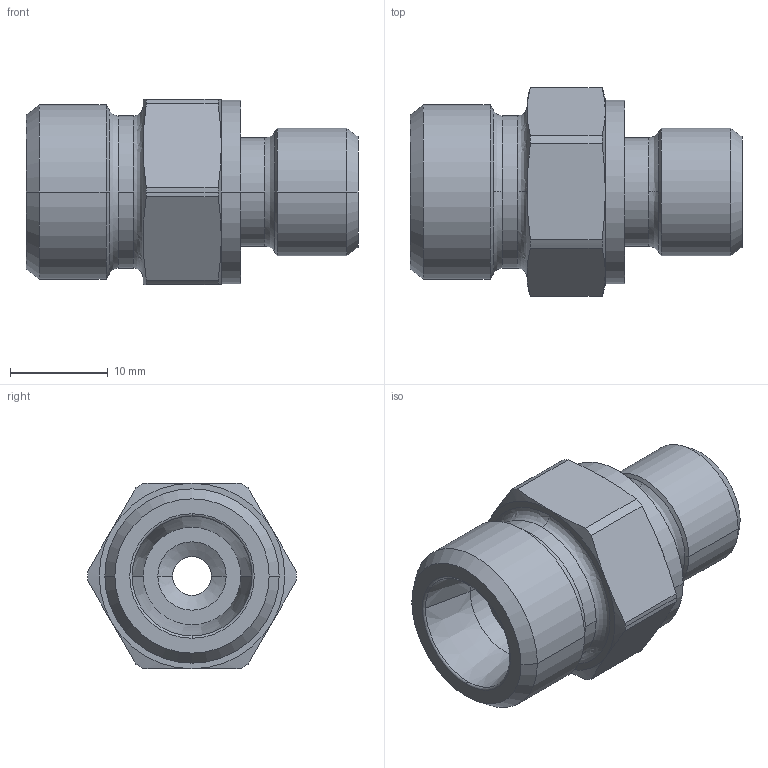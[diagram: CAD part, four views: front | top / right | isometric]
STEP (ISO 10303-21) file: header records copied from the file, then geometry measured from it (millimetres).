
FILE_DESCRIPTION((''),'2;1');
FILE_NAME('100542.stp','2007-10-30T14:33:59',(''),(''),'AutoCAD STEP 2000i','AutoCAD 2000i',', , ');
FILE_SCHEMA(('CONFIG_CONTROL_DESIGN'));
Length unit declared in the file: millimetre
Products named in the file (2): 100542.0; CHIAVE SMUSSATA#0
Assembly tree (1 placements, depth 2):
  100542.0
    CHIAVE SMUSSATA#0
Bounding box: 34 x 21.4 x 19 mm (x, y, z)
Volume: 5820.2 mm3; surface area: 3108.3 mm2
Topology: 1 solids, 1 shells, 79 faces, 193 edges, 121 vertices
Faces by surface type: cylinder 26, cone 26, plane 13, bspline 12, torus 2
Entity records: 2935 total; most frequent: CARTESIAN_POINT 971, DIRECTION 430, ORIENTED_EDGE 386, EDGE_CURVE 193, AXIS2_PLACEMENT_3D 192, CIRCLE 123, VERTEX_POINT 121, EDGE_LOOP 86
